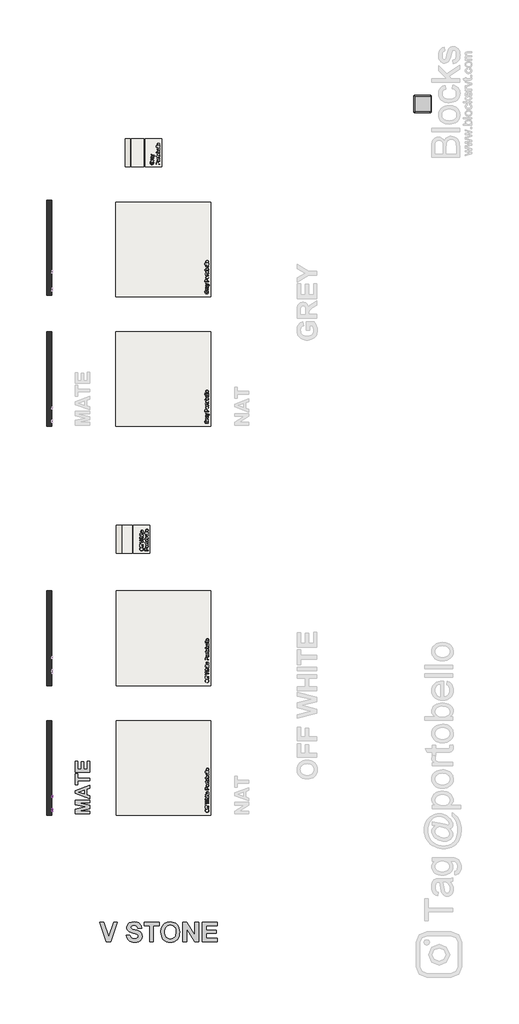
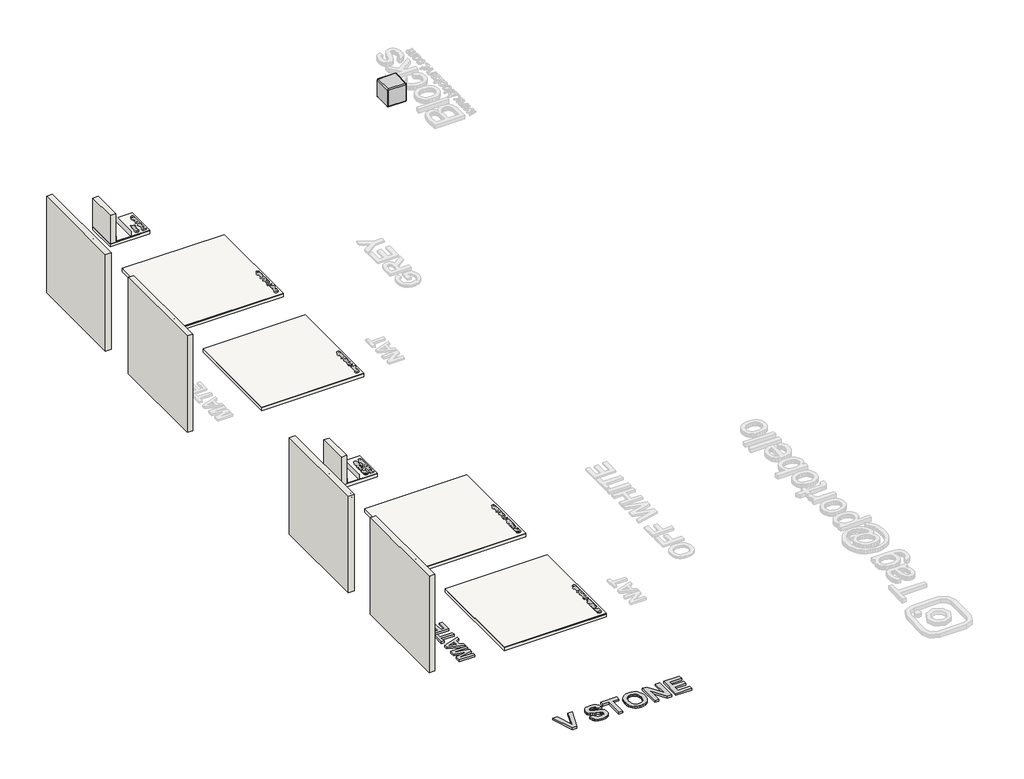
# One storey, part 1 of 8: 12 slabs, 6 walls, 4 proxies, 1 furniture element.
"""IFC4 building model written with IfcOpenShell, lengths in millimetres."""

from ifc_helpers import new_model, si_unit, frame, origin, origin_with_axes, place, context, project, spatial, polyline, outline, extrude, faceted_brep, transform, mapped, element, save
from components import branco_22256ad2

model = new_model("IFC4")

# Units and contexts
model_context = context("Model", 3, world=origin())
ifc_project = project(units=[si_unit("LENGTHUNIT", "METRE", prefix="MILLI")], contexts=[model_context])

# Site, building, storey
site = spatial("IfcSite", under=ifc_project)
building = spatial("IfcBuilding", under=site)
storey = spatial("IfcBuildingStorey", under=building, Name="PORTOBELLO - SHOWROOM", Elevation=0.0)

# Proxies
placement = place(None, origin())
element("IfcBuildingElementProxy", 1, Name="10mm Arial", ObjectType="10mm Arial", at=placement, inside=storey, context=model_context, shape_type="SweptSolid", body=[
    extrude(outline(polyline([(-8972.4874975, 2570.2225786), (-8972.4874975, 2582.7796173), (-8931.6771215, 2582.7796173), (-8931.6771215, 2545.2311284), (-8951.8247921, 2533.3853281), (-8973.1251597, 2529.4122026), (-8987.2119744, 2530.9910295), (-8999.9437571, 2535.7275101), (-9010.5203645, 2543.4560977), (-9018.1416531, 2554.0112453), (-9022.7493751, 2566.6725173), (-9024.2852825, 2580.7194782), (-9022.7555065, 2594.8676066), (-9018.1661786, 2608.0285849), (-9010.7073711, 2619.0681105), (-9000.5691565, 2626.8518804), (-8988.2205842, 2631.4687994), (-8974.1307038, 2633.0077724), (-8954.4858052, 2629.4393171), (-8940.7147559, 2619.5065032), (-8933.124124, 2602.8904997), (-8944.7001442, 2599.6286127), (-8950.4268406, 2611.241421), (-8960.2125016, 2617.9368733), (-8974.3269075, 2620.4507336), (-8990.4033507, 2617.7406696), (-9001.3417087, 2610.6282844), (-9007.8041691, 2600.9529879), (-9011.7282437, 2581.234513), (-9007.0070914, 2559.3455342), (-8993.2728303, 2546.2489352), (-8974.1307038, 2541.9692413), (-8956.9506146, 2545.1943402), (-8944.2341603, 2552.0737335), (-8944.2341603, 2570.2225786), (-8972.4874975, 2570.2225786)])), frame((-7810.2594677, 0.0, 0.0), z_axis=(1.0, 0.0, 0.0), x_axis=(0.0, 1.0, 0.0)), (0.0, 0.0, 1.0), 20.0),
    extrude(outline(polyline([(-8912.8415634, 2530.9818324), (-8912.8415634, 2604.7544352), (-8901.8541545, 2604.7544352), (-8901.8541545, 2593.8406027), (-8894.0550562, 2603.8960439), (-8886.2069069, 2606.324065), (-8873.6008172, 2602.4490413), (-8877.794672, 2591.1918523), (-8886.6238399, 2593.7670263), (-8893.7239624, 2591.2899542), (-8898.2489109, 2584.4228236), (-8900.2845246, 2569.7565947), (-8900.2845246, 2530.9818324), (-8912.8415634, 2530.9818324)])), frame((-7810.2594677, 0.0, 0.0), z_axis=(1.0, 0.0, 0.0), x_axis=(0.0, 1.0, 0.0)), (0.0, 0.0, 1.0), 20.0),
    extrude(outline(polyline([(-8818.6637726, 2540.3996115), (-8830.8406667, 2531.8892747), (-8844.2928849, 2529.4122026), (-8854.7867189, 2530.9021246), (-8862.5275692, 2535.3718909), (-8867.3008381, 2542.1593137), (-8868.8919277, 2550.6022055), (-8866.488432, 2560.5350194), (-8860.1731244, 2567.7455065), (-8851.3807447, 2571.8657848), (-8840.5159631, 2573.7542457), (-8818.737349, 2578.0707278), (-8818.6637726, 2580.866631), (-8822.1218634, 2590.1372572), (-8836.0032773, 2593.7670263), (-8848.7074689, 2591.3512678), (-8854.7652591, 2582.7796173), (-8867.3222978, 2584.3492472), (-8861.889907, 2596.6119803), (-8850.9515491, 2603.797942), (-8834.3845965, 2606.324065), (-8819.1665447, 2604.0922476), (-8810.5703687, 2598.4881785), (-8806.7198705, 2589.965579), (-8806.1067338, 2578.97817), (-8806.1067338, 2563.355448), (-8805.4690717, 2541.5400457), (-8802.9674742, 2530.9818324), (-8815.5245129, 2530.9818324), (-8818.6637726, 2540.3996115)]), holes=[polyline([(-8818.6637726, 2565.513689), (-8838.9218078, 2561.6631908), (-8849.7252757, 2559.6275771), (-8854.6181063, 2556.3166391), (-8856.3348889, 2551.4851223), (-8852.5947553, 2544.6915681), (-8841.6196091, 2541.9692413), (-8828.9154175, 2544.973611), (-8820.7239118, 2552.2454117), (-8818.737349, 2561.9574964), (-8818.6637726, 2565.513689)])]), frame((-7810.2594677, 0.0, 0.0), z_axis=(1.0, 0.0, 0.0), x_axis=(0.0, 1.0, 0.0)), (0.0, 0.0, 1.0), 20.0),
    extrude(outline(polyline([(-8785.7015458, 2530.9818324), (-8785.7015458, 2592.1973964), (-8796.6889548, 2592.1973964), (-8796.6889548, 2604.7544352), (-8785.7015458, 2604.7544352), (-8785.7015458, 2612.1856515), (-8784.3771707, 2622.6580256), (-8777.9514985, 2630.1382928), (-8765.2963578, 2633.0077724), (-8753.8429651, 2631.6343463), (-8755.682375, 2619.8621224), (-8762.9173876, 2620.4507336), (-8770.8268505, 2618.366069), (-8773.1445071, 2610.5914962), (-8773.1445071, 2604.7544352), (-8759.0178385, 2604.7544352), (-8759.0178385, 2592.1973964), (-8773.1445071, 2592.1973964), (-8773.1445071, 2530.9818324), (-8785.7015458, 2530.9818324)])), frame((-7810.2594677, 0.0, 0.0), z_axis=(1.0, 0.0, 0.0), x_axis=(0.0, 1.0, 0.0)), (0.0, 0.0, 1.0), 20.0),
    extrude(outline(polyline([(-8744.8911698, 2530.9818324), (-8744.8911698, 2592.1973964), (-8755.8785788, 2592.1973964), (-8755.8785788, 2604.7544352), (-8744.8911698, 2604.7544352), (-8744.8911698, 2612.1856515), (-8743.5667947, 2622.6580256), (-8737.1411225, 2630.1382928), (-8724.4859818, 2633.0077724), (-8713.0325891, 2631.6343463), (-8714.871999, 2619.8621224), (-8722.1070116, 2620.4507336), (-8730.0164745, 2618.366069), (-8732.3341311, 2610.5914962), (-8732.3341311, 2604.7544352), (-8718.2074625, 2604.7544352), (-8718.2074625, 2592.1973964), (-8732.3341311, 2592.1973964), (-8732.3341311, 2530.9818324), (-8744.8911698, 2530.9818324)])), frame((-7810.2594677, 0.0, 0.0), z_axis=(1.0, 0.0, 0.0), x_axis=(0.0, 1.0, 0.0)), (0.0, 0.0, 1.0), 20.0),
    extrude(outline(polyline([(-7790.2594677, -8694.6630148), (-7790.2594677, -8707.2200535), (-7810.2594677, -8707.2200535), (-7810.2594677, -8694.6630148), (-7790.2594677, -8694.6630148)])), frame((0.0, 0.0, 2618.8811038), z_axis=(0.0, 0.0, 1.0), x_axis=(1.0, 0.0, 0.0)), (0.0, 0.0, 1.0), 12.5570388),
    extrude(outline(polyline([(-7790.2594677, -8694.6630148), (-7790.2594677, -8707.2200535), (-7810.2594677, -8707.2200535), (-7810.2594677, -8694.6630148), (-7790.2594677, -8694.6630148)])), frame((0.0, 0.0, 2530.9818324), z_axis=(0.0, 0.0, 1.0), x_axis=(1.0, 0.0, 0.0)), (0.0, 0.0, 1.0), 73.7726028),
])
element("IfcBuildingElementProxy", 2, Name="10mm Arial", ObjectType="10mm Arial", at=placement, inside=storey, context=model_context, shape_type="SweptSolid", body=[
    extrude(outline(polyline([(-8632.5315384, 2530.9818324), (-8632.5315384, 2631.4381426), (-8595.3018805, 2631.4381426), (-8580.2922951, 2630.4816494), (-8568.0908755, 2625.7850226), (-8560.1814127, 2616.0729379), (-8557.1893058, 2602.3754649), (-8559.209591, 2590.5357961), (-8565.2704469, 2580.6704272), (-8576.6042781, 2574.0117631), (-8594.4434891, 2571.7922084), (-8619.9744996, 2571.7922084), (-8619.9744996, 2530.9818324), (-8632.5315384, 2530.9818324)]), holes=[polyline([(-8619.9744996, 2584.3492472), (-8593.7077251, 2584.3492472), (-8575.2155235, 2588.9600348), (-8571.1136393, 2594.5089216), (-8569.7463445, 2601.9340065), (-8572.9714433, 2612.3328043), (-8581.444992, 2618.0227125), (-8594.0020307, 2618.8811038), (-8619.9744996, 2618.8811038), (-8619.9744996, 2584.3492472)])]), frame((-7810.2594677, 0.0, 0.0), z_axis=(1.0, 0.0, 0.0), x_axis=(0.0, 1.0, 0.0)), (0.0, 0.0, 1.0), 20.0),
    extrude(outline(polyline([(-8544.632267, 2567.8681338), (-8541.9160716, 2585.6552283), (-8533.7674854, 2598.1570847), (-8523.6997815, 2604.2823199), (-8511.6455148, 2606.324065), (-8498.4538795, 2603.8377959), (-8487.9171261, 2596.3789884), (-8481.0101416, 2584.5362539), (-8478.7078135, 2568.8982034), (-8482.7790409, 2546.5555035), (-8494.6371038, 2533.9126256), (-8511.6455148, 2529.4122026), (-8524.9965655, 2531.8892747), (-8535.5210562, 2539.320491), (-8542.3544643, 2551.4115459), (-8544.632267, 2567.8681338)]), holes=[polyline([(-8532.0752282, 2567.8926593), (-8530.6220943, 2556.5281713), (-8526.2626927, 2548.4317017), (-8519.7021304, 2543.5848564), (-8511.6455148, 2541.9692413), (-8503.6256873, 2543.5940535), (-8497.0773877, 2548.4684899), (-8492.7179861, 2556.6722584), (-8491.2648522, 2568.2850667), (-8492.7271832, 2579.3184609), (-8497.1141759, 2587.3045659), (-8503.6716725, 2592.1514112), (-8511.6455148, 2593.7670263), (-8519.7021304, 2592.1575425), (-8526.2626927, 2587.3290913), (-8530.6220943, 2579.2510159), (-8532.0752282, 2567.8926593)])]), frame((-7810.2594677, 0.0, 0.0), z_axis=(1.0, 0.0, 0.0), x_axis=(0.0, 1.0, 0.0)), (0.0, 0.0, 1.0), 20.0),
    extrude(outline(polyline([(-8464.5811448, 2530.9818324), (-8464.5811448, 2604.7544352), (-8453.5937359, 2604.7544352), (-8453.5937359, 2593.8406027), (-8445.7946376, 2603.8960439), (-8437.9464884, 2606.324065), (-8425.3403987, 2602.4490413), (-8429.5342534, 2591.1918523), (-8438.3634213, 2593.7670263), (-8445.4635438, 2591.2899542), (-8449.9884924, 2584.4228236), (-8452.0241061, 2569.7565947), (-8452.0241061, 2530.9818324), (-8464.5811448, 2530.9818324)])), frame((-7810.2594677, 0.0, 0.0), z_axis=(1.0, 0.0, 0.0), x_axis=(0.0, 1.0, 0.0)), (0.0, 0.0, 1.0), 20.0),
    extrude(outline(polyline([(-8390.8085421, 2541.4542065), (-8389.2389122, 2530.6139504), (-8398.6321658, 2529.4122026), (-8409.1535909, 2531.4968672), (-8414.4020407, 2536.9660462), (-8415.9226196, 2551.2153421), (-8415.9226196, 2592.1973964), (-8425.3403987, 2592.1973964), (-8425.3403987, 2602.4490413), (-8425.3403987, 2604.7544352), (-8415.9226196, 2604.7544352), (-8415.9226196, 2622.6825511), (-8403.3655808, 2630.0647164), (-8403.3655808, 2604.7544352), (-8390.8085421, 2604.7544352), (-8390.8085421, 2592.1973964), (-8403.3655808, 2592.1973964), (-8403.3655808, 2551.5832241), (-8402.7033932, 2545.108501), (-8400.5574149, 2542.8153699), (-8396.2777211, 2541.9692413), (-8390.8085421, 2541.4542065)])), frame((-7810.2594677, 0.0, 0.0), z_axis=(1.0, 0.0, 0.0), x_axis=(0.0, 1.0, 0.0)), (0.0, 0.0, 1.0), 20.0),
    extrude(outline(polyline([(-8381.390763, 2567.8681338), (-8378.6745676, 2585.6552283), (-8370.5259814, 2598.1570847), (-8360.4582775, 2604.2823199), (-8348.4040108, 2606.324065), (-8335.2123756, 2603.8377959), (-8324.6756221, 2596.3789884), (-8317.7686376, 2584.5362539), (-8315.4663095, 2568.8982034), (-8319.5375369, 2546.5555035), (-8331.3955999, 2533.9126256), (-8348.4040108, 2529.4122026), (-8361.7550615, 2531.8892747), (-8372.2795522, 2539.320491), (-8379.1129603, 2551.4115459), (-8381.390763, 2567.8681338)]), holes=[polyline([(-8368.8337242, 2567.8926593), (-8367.3805903, 2556.5281713), (-8363.0211887, 2548.4317017), (-8356.4606265, 2543.5848564), (-8348.4040108, 2541.9692413), (-8340.3841833, 2543.5940535), (-8333.8358838, 2548.4684899), (-8329.4764821, 2556.6722584), (-8328.0233482, 2568.2850667), (-8329.4856792, 2579.3184609), (-8333.872672, 2587.3045659), (-8340.4301685, 2592.1514112), (-8348.4040108, 2593.7670263), (-8356.4606265, 2592.1575425), (-8363.0211887, 2587.3290913), (-8367.3805903, 2579.2510159), (-8368.8337242, 2567.8926593)])]), frame((-7810.2594677, 0.0, 0.0), z_axis=(1.0, 0.0, 0.0), x_axis=(0.0, 1.0, 0.0)), (0.0, 0.0, 1.0), 20.0),
    extrude(outline(polyline([(-8288.7826021, 2530.9818324), (-8301.3396408, 2530.9818324), (-8301.3396408, 2631.4381426), (-8288.7826021, 2631.4381426), (-8288.7826021, 2594.1839592), (-8279.9902224, 2603.2890386), (-8269.0641271, 2606.324065), (-8256.4825629, 2603.5894755), (-8246.7214273, 2595.9007418), (-8240.7249508, 2583.944577), (-8238.554447, 2568.9717798), (-8240.8015929, 2552.2086235), (-8247.5430304, 2539.7374239), (-8257.4359904, 2531.9935079), (-8269.1377035, 2529.4122026), (-8280.3029221, 2532.7415346), (-8288.7826021, 2542.7295308), (-8288.7826021, 2530.9818324)]), holes=[polyline([(-8288.7826021, 2568.3831686), (-8285.3490368, 2550.8229347), (-8278.7700804, 2544.1826647), (-8270.2168241, 2541.9692413), (-8262.9695487, 2543.6001848), (-8256.7768685, 2548.4930154), (-8252.5278315, 2556.6170761), (-8251.1114858, 2567.9417102), (-8252.4695835, 2579.4318912), (-8256.5438766, 2587.4639814), (-8262.5434188, 2592.191265), (-8269.6772638, 2593.7670263), (-8276.9245391, 2592.1360827), (-8283.1172193, 2587.2432522), (-8287.3662564, 2579.2663443), (-8288.7826021, 2568.3831686)])]), frame((-7810.2594677, 0.0, 0.0), z_axis=(1.0, 0.0, 0.0), x_axis=(0.0, 1.0, 0.0)), (0.0, 0.0, 1.0), 20.0),
    extrude(outline(polyline([(-8172.7771463, 2552.9566503), (-8160.4653622, 2551.3870204), (-8164.9014059, 2542.1102628), (-8171.9800686, 2535.1756872), (-8181.5419348, 2530.8530737), (-8193.4275889, 2529.4122026), (-8208.1612628, 2531.8984717), (-8219.4981597, 2539.3572792), (-8226.7270409, 2551.304247), (-8229.1366679, 2567.2549971), (-8226.7025154, 2583.7422419), (-8219.4000578, 2596.0724201), (-8208.2164451, 2603.7611538), (-8194.1388274, 2606.324065), (-8180.4996025, 2603.7672852), (-8169.6010984, 2596.0969456), (-8162.4549906, 2583.7912928), (-8160.0729547, 2567.3285735), (-8160.1465311, 2563.9440592), (-8216.5796292, 2563.9440592), (-8214.4060597, 2554.5446742), (-8209.3568793, 2547.6346241), (-8202.0697501, 2543.385587), (-8193.1823343, 2541.9692413), (-8180.8705502, 2544.5934662), (-8172.7771463, 2552.9566503)]), holes=[polyline([(-8216.5796292, 2576.5010979), (-8172.6299935, 2576.5010979), (-8177.6577141, 2587.8809143), (-8184.9785658, 2592.2954983), (-8194.1878784, 2593.7670263), (-8209.6511849, 2589.0703994), (-8214.5164243, 2583.5797607), (-8216.5796292, 2576.5010979)])]), frame((-7810.2594677, 0.0, 0.0), z_axis=(1.0, 0.0, 0.0), x_axis=(0.0, 1.0, 0.0)), (0.0, 0.0, 1.0), 20.0),
    extrude(outline(polyline([(-7790.2594677, -8134.9588772), (-7790.2594677, -8147.5159159), (-7810.2594677, -8147.5159159), (-7810.2594677, -8134.9588772), (-7790.2594677, -8134.9588772)])), frame((0.0, 0.0, 2530.9818324), z_axis=(0.0, 0.0, 1.0), x_axis=(1.0, 0.0, 0.0)), (0.0, 0.0, 1.0), 100.4563101),
    extrude(outline(polyline([(-7790.2594677, -8103.5662802), (-7790.2594677, -8116.123319), (-7810.2594677, -8116.123319), (-7810.2594677, -8103.5662802), (-7790.2594677, -8103.5662802)])), frame((0.0, 0.0, 2530.9818324), z_axis=(0.0, 0.0, 1.0), x_axis=(1.0, 0.0, 0.0)), (0.0, 0.0, 1.0), 100.4563101),
    extrude(outline(polyline([(-8087.8699818, 2567.8681338), (-8085.1537864, 2585.6552283), (-8077.0052002, 2598.1570847), (-8066.9374963, 2604.2823199), (-8054.8832295, 2606.324065), (-8041.6915943, 2603.8377959), (-8031.1548409, 2596.3789884), (-8024.2478564, 2584.5362539), (-8021.9455282, 2568.8982034), (-8026.0167557, 2546.5555035), (-8037.8748186, 2533.9126256), (-8054.8832295, 2529.4122026), (-8068.2342803, 2531.8892747), (-8078.758771, 2539.320491), (-8085.5921791, 2551.4115459), (-8087.8699818, 2567.8681338)]), holes=[polyline([(-8075.312943, 2567.8926593), (-8073.8598091, 2556.5281713), (-8069.5004075, 2548.4317017), (-8062.9398452, 2543.5848564), (-8054.8832295, 2541.9692413), (-8046.863402, 2543.5940535), (-8040.3151025, 2548.4684899), (-8035.9557009, 2556.6722584), (-8034.502567, 2568.2850667), (-8035.9648979, 2579.3184609), (-8040.3518907, 2587.3045659), (-8046.9093873, 2592.1514112), (-8054.8832295, 2593.7670263), (-8062.9398452, 2592.1575425), (-8069.5004075, 2587.3290913), (-8073.8598091, 2579.2510159), (-8075.312943, 2567.8926593)])]), frame((-7810.2594677, 0.0, 0.0), z_axis=(1.0, 0.0, 0.0), x_axis=(0.0, 1.0, 0.0)), (0.0, 0.0, 1.0), 20.0),
])
element("IfcBuildingElementProxy", 3, Name="400mm Arial", ObjectType="400mm Arial", at=placement, inside=storey, context=model_context, shape_type="SweptSolid", body=[
    extrude(outline(polyline([(-6726.6051838, -9087.2928878), (-7134.7089437, -9087.2928878), (-7134.7089437, -8954.092355), (-6856.3643654, -8889.7188453), (-7134.7089437, -8825.3453355), (-7134.7089437, -8692.1448028), (-6726.6051838, -8692.1448028), (-6726.6051838, -8769.8788523), (-7047.8654353, -8773.117771), (-6726.6051838, -8844.1715506), (-6726.6051838, -8935.1649237), (-7047.8654353, -9006.3199196), (-6726.6051838, -9009.5588383), (-6726.6051838, -9087.2928878)])), origin_with_axes(), (0.0, 0.0, 1.0), 50.0),
    extrude(outline(polyline([(-6726.6051838, -8271.0853678), (-6726.6051838, -8352.7668496), (-6817.2949082, -8384.751172), (-6817.2949082, -8538.9034603), (-6726.6051838, -8570.482918), (-6726.6051838, -8653.277778), (-7134.7089437, -8504.2875164), (-7134.7089437, -8421.4926564), (-6726.6051838, -8271.0853678)]), holes=[polyline([(-6888.5511203, -8409.6503598), (-7037.5413818, -8462.1815729), (-6888.5511203, -8514.0042726), (-6888.5511203, -8409.6503598)])]), origin_with_axes(), (0.0, 0.0, 1.0), 50.0),
    extrude(outline(polyline([(-6726.6051838, -8141.5286186), (-7063.4527317, -8141.5286186), (-7063.4527317, -8258.1296929), (-7134.7089437, -8258.1296929), (-7134.7089437, -7947.1934948), (-7063.4527317, -7947.1934948), (-7063.4527317, -8063.7945691), (-6726.6051838, -8063.7945691), (-6726.6051838, -8141.5286186)])), origin_with_axes(), (0.0, 0.0, 1.0), 50.0),
    extrude(outline(polyline([(-6726.6051838, -7895.3707952), (-7134.7089437, -7895.3707952), (-7134.7089437, -7590.9124345), (-7063.4527317, -7590.9124345), (-7063.4527317, -7817.6367456), (-6972.7630072, -7817.6367456), (-6972.7630072, -7603.8681095), (-6901.5067952, -7603.8681095), (-6901.5067952, -7817.6367456), (-6797.8613958, -7817.6367456), (-6797.8613958, -7584.4345971), (-6726.6051838, -7584.4345971), (-6726.6051838, -7895.3707952)])), origin_with_axes(), (0.0, 0.0, 1.0), 50.0),
])
element("IfcBuildingElementProxy", 4, Name="550mm Arial", ObjectType="550mm Arial", at=placement, inside=storey, context=model_context, shape_type="SweptSolid", body=[
    extrude(outline(polyline([(-6255.4893871, -12737.6873012), (-6444.6245281, -12176.5446312), (-6331.8949739, -12176.5446312), (-6190.7742727, -12595.1748771), (-6049.2360546, -12176.5446312), (-5936.9240172, -12176.5446312), (-6136.079563, -12737.6873012), (-6255.4893871, -12737.6873012)])), origin_with_axes(), (0.0, 0.0, 1.0), 50.0),
    extrude(outline(polyline([(-5687.527275, -12550.6397445), (-5580.6429569, -12541.732718), (-5574.1714455, -12567.462195), (-5565.0556605, -12589.5383994), (-5553.2956021, -12607.9613311), (-5538.8912702, -12622.7309903), (-5521.7991734, -12634.0561354), (-5501.9758205, -12642.1455247), (-5479.4212113, -12646.9991583), (-5454.135346, -12648.6170361), (-5427.5621371, -12647.186171), (-5404.4856319, -12642.8935757), (-5384.9058304, -12635.7392502), (-5368.8227328, -12625.7231945), (-5356.2798302, -12613.7935199), (-5347.3206141, -12600.8983375), (-5341.9450844, -12587.0376473), (-5340.1532412, -12572.2114494), (-5343.1280489, -12554.0320691), (-5352.0524719, -12538.7405138), (-5368.4226124, -12525.8148875), (-5393.7345725, -12514.7332939), (-5486.4233171, -12490.9348325), (-5529.444951, -12479.3226446), (-5565.5427635, -12466.3361304), (-5594.7167547, -12451.9752898), (-5616.9669244, -12436.2401228), (-5640.0434296, -12411.876274), (-5656.5266476, -12384.9899273), (-5666.4165784, -12355.581083), (-5669.713222, -12323.6497409), (-5663.6592274, -12282.315571), (-5645.4972437, -12243.7648469), (-5632.0497212, -12226.2900263), (-5615.9231322, -12211.0245659), (-5597.1174766, -12197.9684655), (-5575.6327545, -12187.1217252), (-5525.2871789, -12172.5086348), (-5465.5474738, -12167.6376047), (-5416.1282637, -12170.6733003), (-5373.2240564, -12179.7803869), (-5336.8348519, -12194.9588647), (-5306.9606502, -12216.2087336), (-5283.5057704, -12242.5209946), (-5266.3745314, -12272.8866484), (-5255.5669333, -12307.3056952), (-5251.0829761, -12345.7781349), (-5357.9672942, -12345.7781349), (-5369.7795423, -12309.0540471), (-5378.9083746, -12295.1933569), (-5390.1856792, -12284.3335692), (-5404.0811624, -12276.1441498), (-5421.0645308, -12270.2945645), (-5464.2949232, -12265.6148963), (-5509.8042617, -12270.5903056), (-5528.3837623, -12276.8095673), (-5544.1798171, -12285.5165336), (-5558.1666322, -12300.4775547), (-5562.8289039, -12319.7529168), (-5558.5841491, -12337.9496936), (-5545.8498846, -12353.2934385), (-5531.2150486, -12362.2048141), (-5508.8822453, -12371.2640603), (-5441.122737, -12389.8261644), (-5368.8053362, -12409.1363195), (-5318.1640195, -12429.3510945), (-5282.6750858, -12453.8280209), (-5255.814834, -12485.9246301), (-5245.950998, -12504.9303458), (-5238.9054008, -12526.0410424), (-5233.2689231, -12574.5773783), (-5234.9346415, -12598.1322882), (-5239.9317965, -12620.9217506), (-5248.2603881, -12642.9457653), (-5259.9204165, -12664.2043325), (-5274.6291878, -12683.7406426), (-5292.1040084, -12700.5978861), (-5312.3448782, -12714.7760631), (-5335.3517972, -12726.2751735), (-5361.2421922, -12735.1648035), (-5390.1334896, -12741.5145391), (-5456.9187918, -12746.5943277), (-5506.8642471, -12743.4673003), (-5550.6513286, -12734.0862182), (-5588.2800363, -12718.4510813), (-5619.7503702, -12696.5618897), (-5645.279787, -12668.6795914), (-5665.0857434, -12635.0651345), (-5679.1682394, -12595.7185188), (-5687.527275, -12550.6397445)])), origin_with_axes(), (0.0, 0.0, 1.0), 50.0),
    extrude(outline(polyline([(-5019.5002869, -12737.6873012), (-5019.5002869, -12274.5219228), (-5179.8267641, -12274.5219228), (-5179.8267641, -12176.5446312), (-4752.2894917, -12176.5446312), (-4752.2894917, -12274.5219228), (-4912.6159688, -12274.5219228), (-4912.6159688, -12737.6873012), (-5019.5002869, -12737.6873012)])), origin_with_axes(), (0.0, 0.0, 1.0), 50.0),
    extrude(outline(polyline([(-4698.8473327, -12460.5952734), (-4697.2729461, -12419.5220516), (-4692.5497866, -12381.8933439), (-4684.677854, -12347.7091504), (-4673.6571483, -12316.969471), (-4651.4417717, -12276.4181452), (-4622.3721598, -12240.2159535), (-4588.3271385, -12210.5896525), (-4551.1855338, -12189.7659987), (-4524.4470578, -12180.0848263), (-4495.7253766, -12173.1697032), (-4432.3323989, -12167.6376047), (-4374.4889162, -12172.4346996), (-4322.7342212, -12186.8259841), (-4277.0683138, -12210.8114583), (-4237.491194, -12244.3911222), (-4205.5250589, -12286.5124853), (-4182.6921052, -12336.1230573), (-4168.9923329, -12393.2228381), (-4164.4257422, -12457.8118277), (-4168.9575399, -12521.9615547), (-4182.5529329, -12578.7177539), (-4205.2119212, -12628.0804252), (-4236.9345049, -12670.0495687), (-4276.2506766, -12703.5379007), (-4321.690429, -12727.4581379), (-4373.2537621, -12741.8102803), (-4430.940676, -12746.5943277), (-4489.2364686, -12741.8320259), (-4541.2347152, -12727.5451206), (-4586.9354156, -12703.7336118), (-4626.33857, -12670.3974994), (-4658.0611537, -12628.7110496), (-4680.720142, -12579.8485287), (-4694.315535, -12523.8099367), (-4698.8473327, -12460.5952734)]), holes=[polyline([(-4591.9630146, -12456.6984493), (-4589.12303, -12501.0857113), (-4580.6030765, -12539.7495129), (-4566.4031538, -12572.6898541), (-4546.5232622, -12599.9067349), (-4522.2681416, -12621.2174917), (-4494.9425325, -12636.4394608), (-4464.5464347, -12645.5726423), (-4431.0798483, -12648.6170361), (-4397.6480549, -12645.594388), (-4367.3563364, -12636.5264435), (-4340.2046926, -12621.4132027), (-4316.1931236, -12600.2546656), (-4296.5567834, -12573.0508322), (-4282.5308261, -12539.8017025), (-4274.1152518, -12500.5072765), (-4271.3100603, -12455.1675542), (-4274.0413165, -12410.4584563), (-4282.235085, -12371.8033529), (-4295.8913659, -12339.2022442), (-4315.0101591, -12312.65513), (-4338.6520517, -12292.0750278), (-4365.8776308, -12277.3749547), (-4396.6868963, -12268.5549109), (-4431.0798483, -12265.6148963), (-4465.5075933, -12268.589704), (-4496.421238, -12277.514127), (-4523.8207825, -12292.3881654), (-4547.7062266, -12313.2118192), (-4567.0685713, -12340.0285797), (-4580.8988176, -12372.8819382), (-4589.1969653, -12411.7718947), (-4591.9630146, -12456.6984493)])]), origin_with_axes(), (0.0, 0.0, 1.0), 50.0),
    extrude(outline(polyline([(-4075.3554771, -12737.6873012), (-4075.3554771, -12176.5446312), (-3963.3217843, -12176.5446312), (-3727.9814433, -12554.2582241), (-3727.9814433, -12176.5446312), (-3621.0971252, -12176.5446312), (-3621.0971252, -12737.6873012), (-3736.6101253, -12737.6873012), (-3968.471159, -12365.5405999), (-3968.471159, -12737.6873012), (-4075.3554771, -12737.6873012)])), origin_with_axes(), (0.0, 0.0, 1.0), 50.0),
    extrude(outline(polyline([(-3514.2128072, -12737.6873012), (-3514.2128072, -12176.5446312), (-3095.5825613, -12176.5446312), (-3095.5825613, -12274.5219228), (-3407.3284891, -12274.5219228), (-3407.3284891, -12399.2202939), (-3113.3966143, -12399.2202939), (-3113.3966143, -12497.1975855), (-3407.3284891, -12497.1975855), (-3407.3284891, -12639.7100096), (-3086.6755348, -12639.7100096), (-3086.6755348, -12737.6873012), (-3514.2128072, -12737.6873012)])), origin_with_axes(), (0.0, 0.0, 1.0), 50.0),
])

# Furniture
branco_shape = branco_22256ad2(model_context)
element("IfcFurniture", 5, ObjectType="Blks_Mob_Blocks Revit_Cubo : Branco", at=placement, inside=storey, context=model_context, shape_type="MappedRepresentation", body=[
    mapped(branco_shape, transform((2764.7103082, 11157.8908306, 0.0), x_axis=(1.0, 0.0, 0.0), y_axis=(0.0, 1.0, 0.0), z_axis=(0.0, 0.0, 1.0))),
])

# Slabs
element("IfcSlab", 6, ObjectType="PORTOBELLO - LAJE", at=placement, inside=storey, context=model_context, shape_type="SweptSolid", body=[
    extrude(outline(polyline([(-3279.933901, 8362.8400874), (-3279.933901, 5662.8400874), (-5979.933901, 5662.8400874), (-5979.933901, 8362.8400874), (-3279.933901, 8362.8400874)])), frame((0.0, 0.0, -80.0), z_axis=(0.0, 0.0, 1.0), x_axis=(1.0, 0.0, 0.0)), (0.0, 0.0, 1.0), 80.0),
])
element("IfcSlab", 7, ObjectType="PORTOBELLO - GREY ST 120X120 NAT RET", at=placement, inside=storey, context=model_context, shape_type="SweptSolid", body=[
    extrude(outline(polyline([(-3279.933901, 8362.8400874), (-3279.933901, 5662.8400874), (-5979.933901, 5662.8400874), (-5979.933901, 8362.8400874), (-3279.933901, 8362.8400874)])), origin_with_axes(), (0.0, 0.0, 1.0), 17.0),
])
element("IfcSlab", 8, ObjectType="PORTOBELLO_LAJE", at=placement, inside=storey, context=model_context, shape_type="SweptSolid", body=[
    extrude(outline(polyline([(-4672.2594677, 10166.8641954), (-4672.2594677, 9366.8641954), (-5722.2594677, 9366.8641954), (-5722.2594677, 10166.8641954), (-4672.2594677, 10166.8641954)])), frame((0.0, 0.0, -80.0), z_axis=(0.0, 0.0, 1.0), x_axis=(1.0, 0.0, 0.0)), (0.0, 0.0, 1.0), 80.0),
])
element("IfcSlab", 9, ObjectType="PORTOBELLO - GREY 80X80 NAT RET", at=placement, inside=storey, context=model_context, shape_type="SweptSolid", body=[
    extrude(outline(polyline([(-4672.2594677, 10166.8641954), (-4672.2594677, 9366.8641954), (-5572.2594677, 9366.8641954), (-5572.2594677, 10166.8641954), (-4672.2594677, 10166.8641954)])), frame((0.0, 0.0, 1.0), z_axis=(0.0, 0.0, 1.0), x_axis=(1.0, 0.0, 0.0)), (0.0, 0.0, 1.0), 17.0),
])
element("IfcSlab", 10, ObjectType="PORTOBELLO - LAJE", at=placement, inside=storey, context=model_context, shape_type="SweptSolid", body=[
    extrude(outline(polyline([(-3279.933901, 4662.8400874), (-3279.933901, 1962.8400874), (-5979.933901, 1962.8400874), (-5979.933901, 4662.8400874), (-3279.933901, 4662.8400874)])), frame((0.0, 0.0, -80.0), z_axis=(0.0, 0.0, 1.0), x_axis=(1.0, 0.0, 0.0)), (0.0, 0.0, 1.0), 80.0),
])
element("IfcSlab", 11, ObjectType="PORTOBELLO - GREY 80X80 NAT RET", at=placement, inside=storey, context=model_context, shape_type="SweptSolid", body=[
    extrude(outline(polyline([(-3279.933901, 4662.8400874), (-3279.933901, 1962.8400874), (-5979.933901, 1962.8400874), (-5979.933901, 4662.8400874), (-3279.933901, 4662.8400874)])), origin_with_axes(), (0.0, 0.0, 1.0), 17.0),
])
element("IfcSlab", 12, ObjectType="PORTOBELLO - LAJE", at=placement, inside=storey, context=model_context, shape_type="SweptSolid", body=[
    extrude(outline(polyline([(-3270.2594677, -2726.1599126), (-3270.2594677, -5426.1599126), (-5970.2594677, -5426.1599126), (-5970.2594677, -2726.1599126), (-3270.2594677, -2726.1599126)])), frame((0.0, 0.0, -80.0), z_axis=(0.0, 0.0, 1.0), x_axis=(1.0, 0.0, 0.0)), (0.0, 0.0, 1.0), 80.0),
])
element("IfcSlab", 13, ObjectType="PORTOBELLO - OFF WHITE ST 120X120 NAT RET", at=placement, inside=storey, context=model_context, shape_type="SweptSolid", body=[
    extrude(outline(polyline([(-3270.2594677, -2726.1599126), (-3270.2594677, -5426.1599126), (-5970.2594677, -5426.1599126), (-5970.2594677, -2726.1599126), (-3270.2594677, -2726.1599126)])), frame((0.0, 0.0, 2.0), z_axis=(0.0, 0.0, 1.0), x_axis=(1.0, 0.0, 0.0)), (0.0, 0.0, 1.0), 15.0),
])
element("IfcSlab", 14, ObjectType="PORTOBELLO_LAJE", at=placement, inside=storey, context=model_context, shape_type="Brep", body=[
    faceted_brep([(-5020.2594677, -848.4150043, -80.0), (-5020.2594677, -1648.4150043, -80.0), (-5970.2594677, -1648.4150043, -80.0), (-5970.2594677, -848.4150043, -80.0), (-5020.2594677, -848.4150043, 0.0), (-5820.2594677, -848.4150043, 0.0), (-5970.2594677, -848.4150043, 0.0), (-5970.2594677, -1648.4150043, 0.0), (-5820.2594677, -1648.4150043, 0.0), (-5020.2594677, -1648.4150043, 0.0)], [[[0, 1, 2, 3]], [[4, 5, 6, 7, 8, 9]], [[1, 0, 4, 9]], [[2, 1, 9, 8, 7]], [[3, 2, 7, 6]], [[0, 3, 6, 5, 4]]]),
])
element("IfcSlab", 15, ObjectType="PORTOBELLO - OFF WHITE 80X80 NAT RET", at=placement, inside=storey, context=model_context, shape_type="SweptSolid", body=[
    extrude(outline(polyline([(-5020.2594677, -848.4150043), (-5020.2594677, -1648.4150043), (-5820.2594677, -1648.4150043), (-5820.2594677, -848.4150043), (-5020.2594677, -848.4150043)])), frame((0.0, 0.0, 1.0), z_axis=(0.0, 0.0, 1.0), x_axis=(1.0, 0.0, 0.0)), (0.0, 0.0, 1.0), 17.0),
])
element("IfcSlab", 16, ObjectType="PORTOBELLO - LAJE", at=placement, inside=storey, context=model_context, shape_type="SweptSolid", body=[
    extrude(outline(polyline([(-3270.2594677, -6426.1599126), (-3270.2594677, -9126.1599126), (-5970.2594677, -9126.1599126), (-5970.2594677, -6426.1599126), (-3270.2594677, -6426.1599126)])), frame((0.0, 0.0, -80.0), z_axis=(0.0, 0.0, 1.0), x_axis=(1.0, 0.0, 0.0)), (0.0, 0.0, 1.0), 80.0),
])
element("IfcSlab", 17, ObjectType="PORTOBELLO - OFF WHITE 80X80 NAT RET", at=placement, inside=storey, context=model_context, shape_type="SweptSolid", body=[
    extrude(outline(polyline([(-3270.2594677, -6426.1599126), (-3270.2594677, -9126.1599126), (-5970.2594677, -9126.1599126), (-5970.2594677, -6426.1599126), (-3270.2594677, -6426.1599126)])), origin_with_axes(), (0.0, 0.0, 1.0), 17.0),
])

# Walls
element("IfcWall", 18, ObjectType="PORTOBELLO - V STONE GREY GRAFFI 45X120 MATE RET", at=placement, inside=storey, context=model_context, shape_type="SweptSolid", body=[
    extrude(outline(polyline([(-7960.2594677, 1962.8400874), (-7960.2594677, 4662.8400874), (-7810.2594677, 4662.8400874), (-7810.2594677, 1962.8400874), (-7960.2594677, 1962.8400874)])), origin_with_axes(), (0.0, 0.0, 1.0), 2700.0),
])
element("IfcWall", 19, ObjectType="PORTOBELLO - V STONE OFF WHITE 80X80 NAT RET", at=placement, inside=storey, context=model_context, shape_type="Brep", body=[
    faceted_brep([(-5820.2594677, -1648.4150043, 0.0), (-5820.2594677, -848.4150043, 0.0), (-5820.2594677, -848.4150043, 17.0), (-5820.2594677, -848.4150043, 167.0), (-5820.2594677, -848.4150043, 800.0), (-5820.2594677, -1648.4150043, 800.0), (-5820.2594677, -1648.4150043, 167.0), (-5820.2594677, -1648.4150043, 17.0), (-5970.2594677, -848.4150043, 0.0), (-5970.2594677, -1648.4150043, 0.0), (-5970.2594677, -1648.4150043, 800.0), (-5970.2594677, -848.4150043, 800.0)], [[[0, 1, 2, 3, 4, 5, 6, 7]], [[8, 9, 10, 11]], [[1, 0, 9, 8]], [[8, 11, 4, 3, 2, 1]], [[5, 4, 11, 10]], [[10, 9, 0, 7, 6, 5]]]),
])
element("IfcWall", 20, ObjectType="PORTOBELLO - V STONE OFF WHITE 45X120 MATE RET", at=placement, inside=storey, context=model_context, shape_type="SweptSolid", body=[
    extrude(outline(polyline([(-7810.2594677, -2726.1599126), (-7810.2594677, -5426.1599126), (-7960.2594677, -5426.1599126), (-7960.2594677, -2726.1599126), (-7810.2594677, -2726.1599126)])), frame((0.0, 0.0, 1.0), z_axis=(0.0, 0.0, 1.0), x_axis=(1.0, 0.0, 0.0)), (0.0, 0.0, 1.0), 2699.0),
])
element("IfcWall", 21, ObjectType="PORTOBELLO - V STONE GREY 45X120 MATE RET", at=placement, inside=storey, context=model_context, shape_type="SweptSolid", body=[
    extrude(outline(polyline([(-7810.2594677, 8408.9485433), (-7810.2594677, 5708.9485433), (-7960.2594677, 5708.9485433), (-7960.2594677, 8408.9485433), (-7810.2594677, 8408.9485433)])), frame((0.0, 0.0, 1.0), z_axis=(0.0, 0.0, 1.0), x_axis=(1.0, 0.0, 0.0)), (0.0, 0.0, 1.0), 2699.0),
])
element("IfcWall", 22, ObjectType="PORTOBELLO - V STONE GREY 80X80 NAT RET", at=placement, inside=storey, context=model_context, shape_type="Brep", body=[
    faceted_brep([(-5572.2594677, 9366.8641954, 0.0), (-5572.2594677, 10166.8641954, 0.0), (-5572.2594677, 10166.8641954, 17.0), (-5572.2594677, 10166.8641954, 167.0), (-5572.2594677, 10166.8641954, 800.0), (-5572.2594677, 9366.8641954, 800.0), (-5572.2594677, 9366.8641954, 167.0), (-5572.2594677, 9366.8641954, 17.0), (-5722.2594677, 10166.8641954, 0.0), (-5722.2594677, 9366.8641954, 0.0), (-5722.2594677, 9366.8641954, 800.0), (-5722.2594677, 10166.8641954, 800.0)], [[[0, 1, 2, 3, 4, 5, 6, 7]], [[8, 9, 10, 11]], [[1, 0, 9, 8]], [[8, 11, 4, 3, 2, 1]], [[5, 4, 11, 10]], [[10, 9, 0, 7, 6, 5]]]),
])
element("IfcWall", 23, ObjectType="PORTOBELLO - V STONE OFF WHITE GRAFFI 45X120 MATE RET", at=placement, inside=storey, context=model_context, shape_type="SweptSolid", body=[
    extrude(outline(polyline([(-7960.2594677, -9126.1599126), (-7960.2594677, -6426.1599126), (-7810.2594677, -6426.1599126), (-7810.2594677, -9126.1599126), (-7960.2594677, -9126.1599126)])), origin_with_axes(), (0.0, 0.0, 1.0), 2700.0),
])

save(model, "model.ifc")
